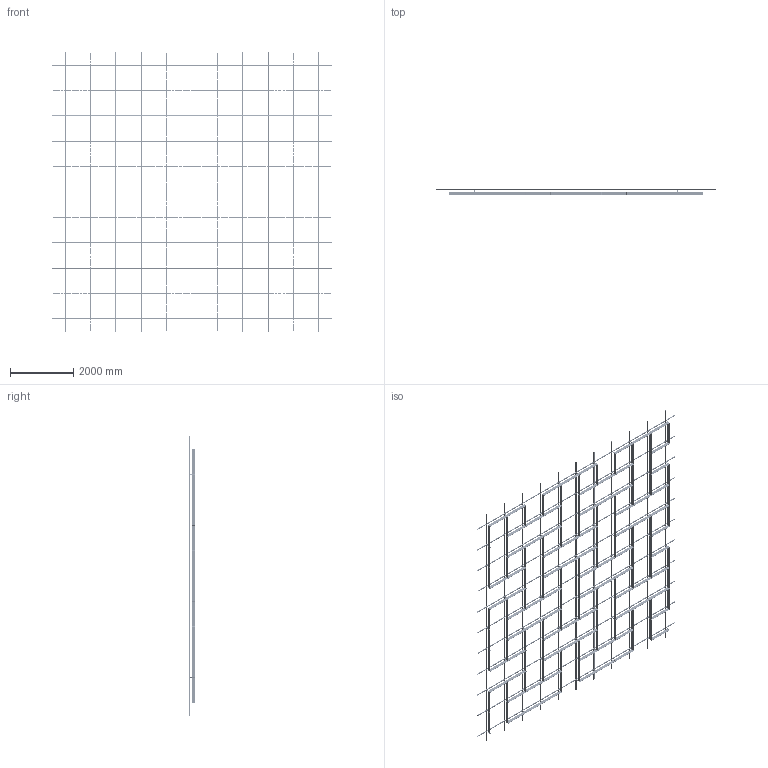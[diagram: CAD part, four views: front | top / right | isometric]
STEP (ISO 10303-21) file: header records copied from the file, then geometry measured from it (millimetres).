
FILE_DESCRIPTION (( 'STEP AP203' ), '1' );
FILE_NAME ('20 ìèäè ñ ïñ.step', '2025-11-26T11:46:18', ( '' ), ( '' ), 'SwSTEP 2.0', 'SolidWorks 2020', '' );
FILE_SCHEMA (( 'CONFIG_CONTROL_DESIGN' ));
Length unit declared in the file: millimetre
Products named in the file (5): SS.SEMA.2400 - Ñèìà-ïðîôèëü; SS.SEMA.2400 - Ñèìà-ïðîôèëü — îáðåçàí 1600; 20 ìèäè ñ ïñ; Var20; Ñèñòåìà â çîíå 8000õ8000
Assembly tree (90 placements, depth 3):
  20 ìèäè ñ ïñ
    Ñèñòåìà â çîíå 8000õ8000
      SS.SEMA.2400 - Ñèìà-ïðîôèëü  x66
      SS.SEMA.2400 - Ñèìà-ïðîôèëü — îáðåçàí 1600  x22
    Var20
Bounding box: 8800 x 205 x 8800 mm (x, y, z)
Volume: 123378584.5 mm3; surface area: 56657895.9 mm2
Topology: 737 solids, 737 shells, 19426 faces, 52448 edges, 34496 vertices
Faces by surface type: cylinder 12826, plane 6600
Entity records: 82105 total; most frequent: CARTESIAN_POINT 18728, DIRECTION 12078, ORIENTED_EDGE 11744, EDGE_CURVE 5872, AXIS2_PLACEMENT_3D 5790, VERTEX_POINT 3904, EDGE_LOOP 3432, FACE_OUTER_BOUND 3270
